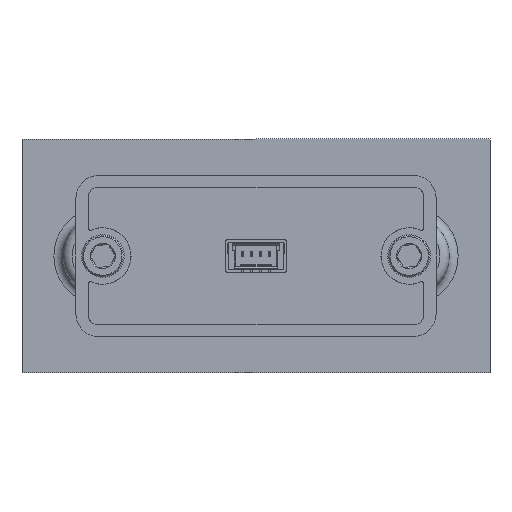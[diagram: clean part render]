
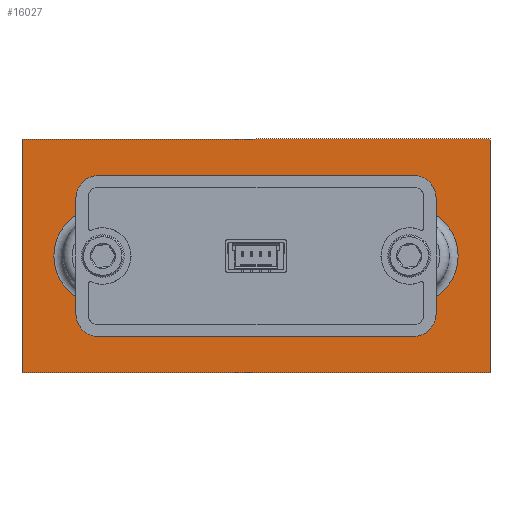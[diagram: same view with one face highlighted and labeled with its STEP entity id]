
A CAD part, front view. The second image highlights one B-rep face of the part: STEP entity #16027.
In plain terms, the highlighted planar face has unit normal (0, -1, 0) as drawn and (0, 1, 0) by its records, which use the part's own axes.
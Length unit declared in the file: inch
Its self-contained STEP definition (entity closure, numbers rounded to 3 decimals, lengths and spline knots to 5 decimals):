
#98 = DIRECTION ( 'NONE',  ( -1., 0., 0. ) ) ;
#209 = EDGE_CURVE ( 'NONE', #27931, #22893, #25162, .T. ) ;
#644 = EDGE_CURVE ( 'NONE', #12064, #26720, #7142, .T. ) ;
#1541 = LINE ( 'NONE', #21215, #26015 ) ;
#2082 = CARTESIAN_POINT ( 'NONE',  ( 0.655, 0.0925, 0.209 ) ) ;
#2115 = VERTEX_POINT ( 'NONE', #27844 ) ;
#2205 = DIRECTION ( 'NONE',  ( 0., -1., 0. ) ) ;
#2265 = DIRECTION ( 'NONE',  ( 0., -1., 0. ) ) ;
#2342 = EDGE_CURVE ( 'NONE', #23987, #2115, #9293, .T. ) ;
#2422 = AXIS2_PLACEMENT_3D ( 'NONE', #16386, #2265, #12065 ) ;
#2807 = CIRCLE ( 'NONE', #22603, 0.209 ) ;
#2959 = CARTESIAN_POINT ( 'NONE',  ( 1., 0.0925, 0.5 ) ) ;
#3089 = CARTESIAN_POINT ( 'NONE',  ( 0.278, 0.0925, -0.112 ) ) ;
#3144 = ORIENTED_EDGE ( 'NONE', *, *, #8127, .T. ) ;
#3464 = VERTEX_POINT ( 'NONE', #16691 ) ;
#4173 = FACE_OUTER_BOUND ( 'NONE', #13850, .T. ) ;
#4326 = VERTEX_POINT ( 'NONE', #23366 ) ;
#4437 = VERTEX_POINT ( 'NONE', #17442 ) ;
#4655 = FACE_BOUND ( 'NONE', #12977, .T. ) ;
#4705 = AXIS2_PLACEMENT_3D ( 'NONE', #22283, #22438, #17494 ) ;
#5109 = DIRECTION ( 'NONE',  ( 0., 0., -1. ) ) ;
#5325 = CARTESIAN_POINT ( 'NONE',  ( 1., 0.0925, 0.5 ) ) ;
#6200 = EDGE_CURVE ( 'NONE', #10903, #27176, #23983, .T. ) ;
#6213 = EDGE_CURVE ( 'NONE', #19534, #20721, #15005, .T. ) ;
#6651 = CARTESIAN_POINT ( 'NONE',  ( -0.655, 0.0925, 0. ) ) ;
#7142 = LINE ( 'NONE', #23819, #8470 ) ;
#7151 = DIRECTION ( 'NONE',  ( 1., 0., 0. ) ) ;
#7167 = CARTESIAN_POINT ( 'NONE',  ( 0.655, 0.0925, -0.209 ) ) ;
#7398 = CARTESIAN_POINT ( 'NONE',  ( -1., 0.0925, 0.5 ) ) ;
#8023 = ORIENTED_EDGE ( 'NONE', *, *, #6200, .T. ) ;
#8105 = CARTESIAN_POINT ( 'NONE',  ( 0.278, 0.0925, 0.112 ) ) ;
#8127 = EDGE_CURVE ( 'NONE', #4437, #23987, #30306, .T. ) ;
#8423 = ORIENTED_EDGE ( 'NONE', *, *, #209, .T. ) ;
#8470 = VECTOR ( 'NONE', #16479, 39.37008 ) ;
#8682 = CARTESIAN_POINT ( 'NONE',  ( 0.333, 0.0925, 0.112 ) ) ;
#9293 = CIRCLE ( 'NONE', #18934, 0.055 ) ;
#9721 = CIRCLE ( 'NONE', #31038, 0.055 ) ;
#9996 = DIRECTION ( 'NONE',  ( 0., -1., 0. ) ) ;
#10377 = LINE ( 'NONE', #17695, #30133 ) ;
#10903 = VERTEX_POINT ( 'NONE', #13400 ) ;
#11126 = CARTESIAN_POINT ( 'NONE',  ( 1., 0.0925, -0.5 ) ) ;
#11478 = ORIENTED_EDGE ( 'NONE', *, *, #26049, .T. ) ;
#11763 = FACE_BOUND ( 'NONE', #30168, .T. ) ;
#11906 = DIRECTION ( 'NONE',  ( 0., -1., 0. ) ) ;
#12064 = VERTEX_POINT ( 'NONE', #12857 ) ;
#12065 = DIRECTION ( 'NONE',  ( 0., 0., -1. ) ) ;
#12494 = ORIENTED_EDGE ( 'NONE', *, *, #28350, .T. ) ;
#12770 = CARTESIAN_POINT ( 'NONE',  ( 0.655, 0.0925, 0. ) ) ;
#12857 = CARTESIAN_POINT ( 'NONE',  ( -0.333, 0.0925, 0.112 ) ) ;
#12977 = EDGE_LOOP ( 'NONE', ( #23061, #11478 ) ) ;
#13400 = CARTESIAN_POINT ( 'NONE',  ( -0.278, 0.0925, -0.167 ) ) ;
#13695 = EDGE_CURVE ( 'NONE', #16695, #12064, #28726, .T. ) ;
#13850 = EDGE_LOOP ( 'NONE', ( #29890, #19110, #8423, #14516 ) ) ;
#14319 = PLANE ( 'NONE',  #15092 ) ;
#14516 = ORIENTED_EDGE ( 'NONE', *, *, #17292, .T. ) ;
#14854 = CARTESIAN_POINT ( 'NONE',  ( 0.278, 0.0925, -0.167 ) ) ;
#15005 = LINE ( 'NONE', #2959, #28402 ) ;
#15092 = AXIS2_PLACEMENT_3D ( 'NONE', #23722, #11906, #28809 ) ;
#15229 = DIRECTION ( 'NONE',  ( 0., 0., -1. ) ) ;
#16008 = EDGE_CURVE ( 'NONE', #26720, #10903, #16623, .T. ) ;
#16027 = ADVANCED_FACE ( 'NONE', ( #25945, #11763, #4655, #4173 ), #14319, .F. ) ;
#16125 = LINE ( 'NONE', #18372, #19440 ) ;
#16386 = CARTESIAN_POINT ( 'NONE',  ( -0.278, 0.0925, -0.112 ) ) ;
#16479 = DIRECTION ( 'NONE',  ( 0., 0., -1. ) ) ;
#16623 = CIRCLE ( 'NONE', #2422, 0.055 ) ;
#16691 = CARTESIAN_POINT ( 'NONE',  ( -0.655, 0.0925, 0.209 ) ) ;
#16695 = VERTEX_POINT ( 'NONE', #30986 ) ;
#16742 = VERTEX_POINT ( 'NONE', #7167 ) ;
#17150 = DIRECTION ( 'NONE',  ( 0., -1., 0. ) ) ;
#17292 = EDGE_CURVE ( 'NONE', #22893, #19534, #1541, .T. ) ;
#17353 = CIRCLE ( 'NONE', #4705, 0.209 ) ;
#17442 = CARTESIAN_POINT ( 'NONE',  ( 0.333, 0.0925, -0.112 ) ) ;
#17452 = DIRECTION ( 'NONE',  ( 0., 0., -1. ) ) ;
#17494 = DIRECTION ( 'NONE',  ( 0., 0., -1. ) ) ;
#17601 = CARTESIAN_POINT ( 'NONE',  ( 0.655, 0.0925, 0. ) ) ;
#17690 = CARTESIAN_POINT ( 'NONE',  ( -1., 0.0925, 0.5 ) ) ;
#17695 = CARTESIAN_POINT ( 'NONE',  ( -1., 0.0925, -0.5 ) ) ;
#17875 = DIRECTION ( 'NONE',  ( 0., 0., -1. ) ) ;
#18210 = CARTESIAN_POINT ( 'NONE',  ( -0.333, 0.0925, -0.112 ) ) ;
#18372 = CARTESIAN_POINT ( 'NONE',  ( -0.278, 0.0925, 0.167 ) ) ;
#18934 = AXIS2_PLACEMENT_3D ( 'NONE', #8105, #9996, #15229 ) ;
#19110 = ORIENTED_EDGE ( 'NONE', *, *, #26916, .T. ) ;
#19440 = VECTOR ( 'NONE', #28071, 39.37008 ) ;
#19534 = VERTEX_POINT ( 'NONE', #5325 ) ;
#19590 = DIRECTION ( 'NONE',  ( 0., -1., 0. ) ) ;
#20002 = DIRECTION ( 'NONE',  ( 0., -1., 0. ) ) ;
#20031 = AXIS2_PLACEMENT_3D ( 'NONE', #17601, #17150, #17452 ) ;
#20632 = VECTOR ( 'NONE', #25333, 39.37008 ) ;
#20721 = VERTEX_POINT ( 'NONE', #11126 ) ;
#20765 = VECTOR ( 'NONE', #7151, 39.37008 ) ;
#20782 = VERTEX_POINT ( 'NONE', #2082 ) ;
#21059 = CIRCLE ( 'NONE', #20031, 0.209 ) ;
#21215 = CARTESIAN_POINT ( 'NONE',  ( -1., 0.0925, 0.5 ) ) ;
#21582 = DIRECTION ( 'NONE',  ( 0., 0., -1. ) ) ;
#22283 = CARTESIAN_POINT ( 'NONE',  ( -0.655, 0.0925, 0. ) ) ;
#22438 = DIRECTION ( 'NONE',  ( 0., -1., 0. ) ) ;
#22603 = AXIS2_PLACEMENT_3D ( 'NONE', #6651, #2205, #23811 ) ;
#22850 = ORIENTED_EDGE ( 'NONE', *, *, #27993, .T. ) ;
#22893 = VERTEX_POINT ( 'NONE', #7398 ) ;
#23012 = AXIS2_PLACEMENT_3D ( 'NONE', #12770, #24888, #17875 ) ;
#23061 = ORIENTED_EDGE ( 'NONE', *, *, #29842, .T. ) ;
#23366 = CARTESIAN_POINT ( 'NONE',  ( -0.655, 0.0925, -0.209 ) ) ;
#23722 = CARTESIAN_POINT ( 'NONE',  ( 0., 0.0925, 0. ) ) ;
#23811 = DIRECTION ( 'NONE',  ( 0., 0., -1. ) ) ;
#23819 = CARTESIAN_POINT ( 'NONE',  ( -0.333, 0.0925, -0.112 ) ) ;
#23890 = DIRECTION ( 'NONE',  ( 0., 0., 1. ) ) ;
#23983 = LINE ( 'NONE', #14854, #20765 ) ;
#23987 = VERTEX_POINT ( 'NONE', #28859 ) ;
#24142 = AXIS2_PLACEMENT_3D ( 'NONE', #26880, #20002, #5109 ) ;
#24888 = DIRECTION ( 'NONE',  ( 0., -1., 0. ) ) ;
#25162 = LINE ( 'NONE', #17690, #20632 ) ;
#25333 = DIRECTION ( 'NONE',  ( 0., 0., 1. ) ) ;
#25945 = FACE_BOUND ( 'NONE', #26438, .T. ) ;
#26015 = VECTOR ( 'NONE', #30927, 39.37008 ) ;
#26032 = CIRCLE ( 'NONE', #23012, 0.209 ) ;
#26049 = EDGE_CURVE ( 'NONE', #3464, #4326, #17353, .T. ) ;
#26167 = CARTESIAN_POINT ( 'NONE',  ( -1., 0.0925, -0.5 ) ) ;
#26293 = ORIENTED_EDGE ( 'NONE', *, *, #29674, .T. ) ;
#26438 = EDGE_LOOP ( 'NONE', ( #8023, #12494, #3144, #30669, #27064, #27141, #29705, #30456 ) ) ;
#26709 = CARTESIAN_POINT ( 'NONE',  ( 0.278, 0.0925, -0.167 ) ) ;
#26720 = VERTEX_POINT ( 'NONE', #18210 ) ;
#26774 = EDGE_CURVE ( 'NONE', #2115, #16695, #16125, .T. ) ;
#26880 = CARTESIAN_POINT ( 'NONE',  ( -0.278, 0.0925, 0.112 ) ) ;
#26916 = EDGE_CURVE ( 'NONE', #20721, #27931, #10377, .T. ) ;
#27064 = ORIENTED_EDGE ( 'NONE', *, *, #26774, .T. ) ;
#27141 = ORIENTED_EDGE ( 'NONE', *, *, #13695, .T. ) ;
#27176 = VERTEX_POINT ( 'NONE', #26709 ) ;
#27844 = CARTESIAN_POINT ( 'NONE',  ( 0.278, 0.0925, 0.167 ) ) ;
#27931 = VERTEX_POINT ( 'NONE', #26167 ) ;
#27993 = EDGE_CURVE ( 'NONE', #16742, #20782, #26032, .T. ) ;
#28071 = DIRECTION ( 'NONE',  ( -1., 0., 0. ) ) ;
#28350 = EDGE_CURVE ( 'NONE', #27176, #4437, #9721, .T. ) ;
#28402 = VECTOR ( 'NONE', #21582, 39.37008 ) ;
#28726 = CIRCLE ( 'NONE', #24142, 0.055 ) ;
#28809 = DIRECTION ( 'NONE',  ( 0., 0., -1. ) ) ;
#28859 = CARTESIAN_POINT ( 'NONE',  ( 0.333, 0.0925, 0.112 ) ) ;
#29320 = DIRECTION ( 'NONE',  ( 0., 0., -1. ) ) ;
#29674 = EDGE_CURVE ( 'NONE', #20782, #16742, #21059, .T. ) ;
#29705 = ORIENTED_EDGE ( 'NONE', *, *, #644, .T. ) ;
#29836 = VECTOR ( 'NONE', #23890, 39.37008 ) ;
#29842 = EDGE_CURVE ( 'NONE', #4326, #3464, #2807, .T. ) ;
#29890 = ORIENTED_EDGE ( 'NONE', *, *, #6213, .T. ) ;
#30133 = VECTOR ( 'NONE', #98, 39.37008 ) ;
#30168 = EDGE_LOOP ( 'NONE', ( #22850, #26293 ) ) ;
#30306 = LINE ( 'NONE', #8682, #29836 ) ;
#30456 = ORIENTED_EDGE ( 'NONE', *, *, #16008, .T. ) ;
#30669 = ORIENTED_EDGE ( 'NONE', *, *, #2342, .T. ) ;
#30927 = DIRECTION ( 'NONE',  ( 1., 0., 0. ) ) ;
#30986 = CARTESIAN_POINT ( 'NONE',  ( -0.278, 0.0925, 0.167 ) ) ;
#31038 = AXIS2_PLACEMENT_3D ( 'NONE', #3089, #19590, #29320 ) ;
